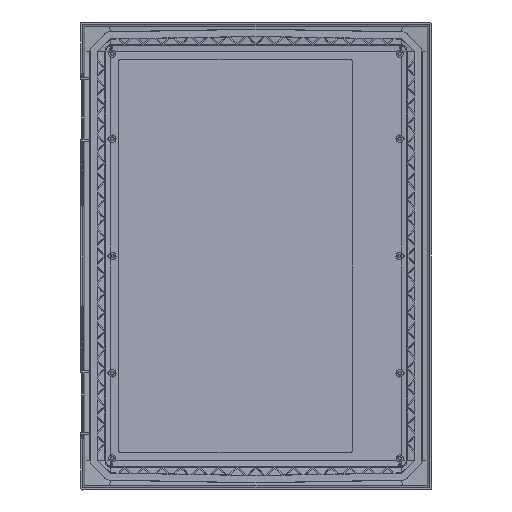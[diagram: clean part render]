
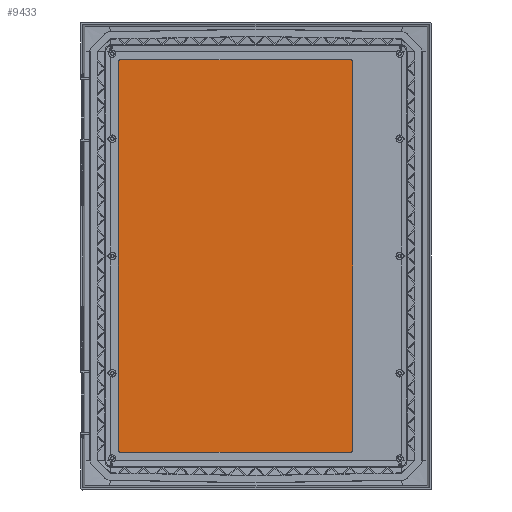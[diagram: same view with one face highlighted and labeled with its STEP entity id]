
A CAD part, front view. The second image highlights one B-rep face of the part: STEP entity #9433.
In plain terms, the highlighted planar face has unit normal (0, -1, 0) as drawn and (0, 0, 1) by its records, which use the part's own axes.
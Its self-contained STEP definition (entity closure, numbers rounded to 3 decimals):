
#227 = EDGE_CURVE ( 'NONE', #759, #38033, #35062, .T. ) ;
#759 = VERTEX_POINT ( 'NONE', #26241 ) ;
#819 = VERTEX_POINT ( 'NONE', #23680 ) ;
#1400 = CARTESIAN_POINT ( 'NONE',  ( -331., -196., 0. ) ) ;
#2363 = CARTESIAN_POINT ( 'NONE',  ( -334.5, -196., 0. ) ) ;
#2860 = EDGE_LOOP ( 'NONE', ( #5335, #29856, #31011, #9904, #20139, #36923, #19066, #22796 ) ) ;
#3713 = VERTEX_POINT ( 'NONE', #15471 ) ;
#4491 = VECTOR ( 'NONE', #27245, 1000. ) ;
#4955 = VERTEX_POINT ( 'NONE', #28281 ) ;
#5335 = ORIENTED_EDGE ( 'NONE', *, *, #44002, .T. ) ;
#7528 = CARTESIAN_POINT ( 'NONE',  ( 0., 0., 0. ) ) ;
#9088 = CARTESIAN_POINT ( 'NONE',  ( -331., 196., 0. ) ) ;
#9433 = ADVANCED_FACE ( 'NONE', ( #43103 ), #39897, .T. ) ;
#9573 = CIRCLE ( 'NONE', #21600, 3.5 ) ;
#9904 = ORIENTED_EDGE ( 'NONE', *, *, #27204, .T. ) ;
#12881 = DIRECTION ( 'NONE',  ( 0., 0., 1. ) ) ;
#13535 = LINE ( 'NONE', #38456, #4491 ) ;
#14636 = CARTESIAN_POINT ( 'NONE',  ( 334.5, 0., 0. ) ) ;
#14831 = AXIS2_PLACEMENT_3D ( 'NONE', #42897, #21445, #21757 ) ;
#15471 = CARTESIAN_POINT ( 'NONE',  ( -331., -199.5, 0. ) ) ;
#17577 = VECTOR ( 'NONE', #36206, 1000. ) ;
#18773 = LINE ( 'NONE', #39561, #21058 ) ;
#19066 = ORIENTED_EDGE ( 'NONE', *, *, #43094, .T. ) ;
#20139 = ORIENTED_EDGE ( 'NONE', *, *, #29549, .T. ) ;
#20947 = DIRECTION ( 'NONE',  ( -1., 0., 0. ) ) ;
#21058 = VECTOR ( 'NONE', #28343, 1000. ) ;
#21445 = DIRECTION ( 'NONE',  ( 0., 0., 1. ) ) ;
#21600 = AXIS2_PLACEMENT_3D ( 'NONE', #42549, #32312, #20947 ) ;
#21757 = DIRECTION ( 'NONE',  ( -1., 0., 0. ) ) ;
#22796 = ORIENTED_EDGE ( 'NONE', *, *, #227, .T. ) ;
#23153 = DIRECTION ( 'NONE',  ( 1., 0., 0. ) ) ;
#23680 = CARTESIAN_POINT ( 'NONE',  ( 334.5, -196., 0. ) ) ;
#25693 = AXIS2_PLACEMENT_3D ( 'NONE', #9088, #12881, #41258 ) ;
#26241 = CARTESIAN_POINT ( 'NONE',  ( -331., 199.5, 0. ) ) ;
#26420 = LINE ( 'NONE', #44181, #45059 ) ;
#27204 = EDGE_CURVE ( 'NONE', #30170, #819, #9573, .T. ) ;
#27245 = DIRECTION ( 'NONE',  ( 0., -1., 0. ) ) ;
#27620 = EDGE_CURVE ( 'NONE', #3713, #30170, #26420, .T. ) ;
#27713 = VERTEX_POINT ( 'NONE', #2363 ) ;
#28281 = CARTESIAN_POINT ( 'NONE',  ( 331., 199.5, 0. ) ) ;
#28343 = DIRECTION ( 'NONE',  ( -1., 0., 0. ) ) ;
#28643 = CIRCLE ( 'NONE', #14831, 3.5 ) ;
#28683 = DIRECTION ( 'NONE',  ( 1., 0., 0. ) ) ;
#29252 = VERTEX_POINT ( 'NONE', #41782 ) ;
#29549 = EDGE_CURVE ( 'NONE', #819, #29252, #31688, .T. ) ;
#29856 = ORIENTED_EDGE ( 'NONE', *, *, #36054, .T. ) ;
#30080 = EDGE_CURVE ( 'NONE', #29252, #4955, #28643, .T. ) ;
#30170 = VERTEX_POINT ( 'NONE', #40679 ) ;
#30442 = DIRECTION ( 'NONE',  ( 0., 0., 1. ) ) ;
#31011 = ORIENTED_EDGE ( 'NONE', *, *, #27620, .T. ) ;
#31664 = AXIS2_PLACEMENT_3D ( 'NONE', #7528, #46019, #28683 ) ;
#31688 = LINE ( 'NONE', #14636, #17577 ) ;
#32312 = DIRECTION ( 'NONE',  ( 0., 0., 1. ) ) ;
#35062 = CIRCLE ( 'NONE', #25693, 3.5 ) ;
#36054 = EDGE_CURVE ( 'NONE', #27713, #3713, #43035, .T. ) ;
#36206 = DIRECTION ( 'NONE',  ( 0., 1., 0. ) ) ;
#36923 = ORIENTED_EDGE ( 'NONE', *, *, #30080, .T. ) ;
#36926 = DIRECTION ( 'NONE',  ( 1., 0., 0. ) ) ;
#38033 = VERTEX_POINT ( 'NONE', #39203 ) ;
#38456 = CARTESIAN_POINT ( 'NONE',  ( -334.5, 0., 0. ) ) ;
#39203 = CARTESIAN_POINT ( 'NONE',  ( -334.5, 196., 0. ) ) ;
#39561 = CARTESIAN_POINT ( 'NONE',  ( 0., 199.5, 0. ) ) ;
#39897 = PLANE ( 'NONE',  #31664 ) ;
#40679 = CARTESIAN_POINT ( 'NONE',  ( 331., -199.5, 0. ) ) ;
#41258 = DIRECTION ( 'NONE',  ( -1., 0., 0. ) ) ;
#41782 = CARTESIAN_POINT ( 'NONE',  ( 334.5, 196., 0. ) ) ;
#42549 = CARTESIAN_POINT ( 'NONE',  ( 331., -196., 0. ) ) ;
#42897 = CARTESIAN_POINT ( 'NONE',  ( 331., 196., 0. ) ) ;
#43035 = CIRCLE ( 'NONE', #46337, 3.5 ) ;
#43094 = EDGE_CURVE ( 'NONE', #4955, #759, #18773, .T. ) ;
#43103 = FACE_OUTER_BOUND ( 'NONE', #2860, .T. ) ;
#44002 = EDGE_CURVE ( 'NONE', #38033, #27713, #13535, .T. ) ;
#44181 = CARTESIAN_POINT ( 'NONE',  ( 0., -199.5, 0. ) ) ;
#45059 = VECTOR ( 'NONE', #36926, 1000. ) ;
#46019 = DIRECTION ( 'NONE',  ( 0., 0., 1. ) ) ;
#46337 = AXIS2_PLACEMENT_3D ( 'NONE', #1400, #30442, #23153 ) ;
